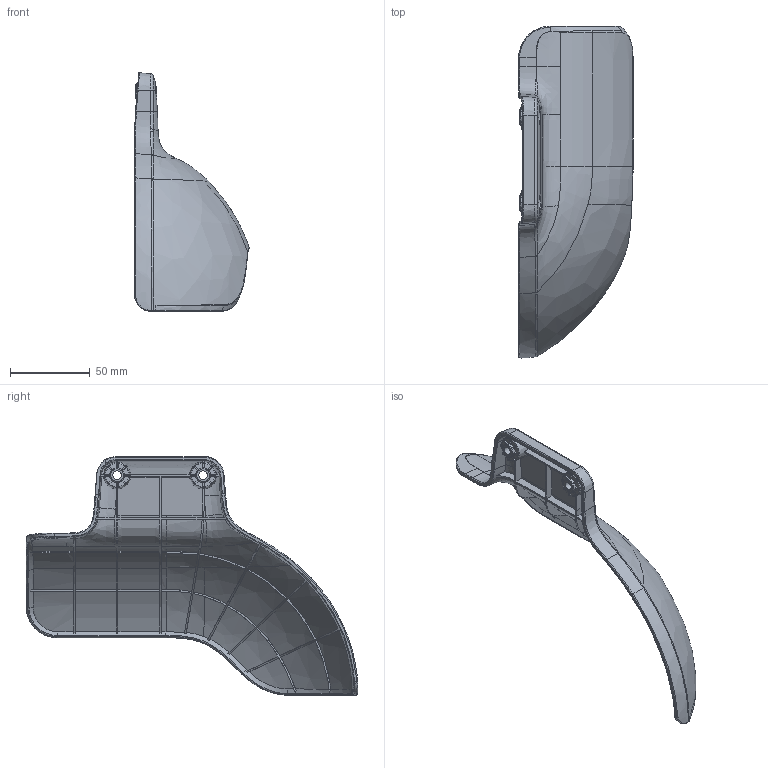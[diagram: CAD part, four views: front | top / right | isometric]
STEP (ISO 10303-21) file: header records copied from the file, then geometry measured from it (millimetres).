
FILE_DESCRIPTION((''),'2;1');
FILE_NAME('YC_SJ_ZS004145_01','2026-03-19T19:10:53',('sean.li'),(''),'CREO PARAMETRIC BY PTC INC, 2022164','CREO PARAMETRIC BY PTC INC, 2022164','');
FILE_SCHEMA(('CONFIG_CONTROL_DESIGN','SHAPE_APPEARANCE_LAYERS_GROUPS'));
Length unit declared in the file: millimetre
Products named in the file (1): YC_SJ_ZS004145_01
Bounding box: 71.61 x 208.25 x 149.73 mm (x, y, z)
Volume: 71919.3 mm3; surface area: 62806.4 mm2
Topology: 1 solids, 1 shells, 551 faces, 1591 edges, 1042 vertices
Faces by surface type: bspline 181, plane 177, cylinder 77, extrusion 43, torus 41, cone 32
Entity records: 37978 total; most frequent: CARTESIAN_POINT 20875, ORIENTED_EDGE 3182, PRESENTATION_STYLE_ASSIGNMENT 1592, STYLED_ITEM 1592, CURVE_STYLE 1591, EDGE_CURVE 1591, DIRECTION 1587, VERTEX_POINT 1042
